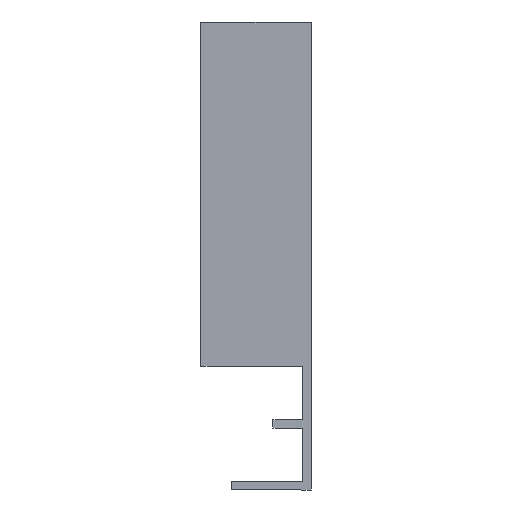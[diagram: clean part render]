
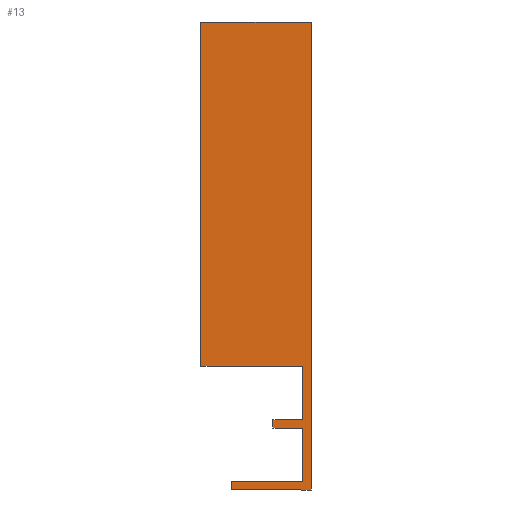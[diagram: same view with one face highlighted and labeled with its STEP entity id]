
A CAD part, left-side view. The second image highlights one B-rep face of the part: STEP entity #13.
In plain terms, the highlighted planar face has unit normal (-1, 0, 0).
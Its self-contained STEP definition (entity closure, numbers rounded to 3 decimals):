
#13 = ADVANCED_FACE ( 'NONE', ( #61 ), #304, .T. ) ;
#25 = VECTOR ( 'NONE', #354, 1000. ) ;
#26 = LINE ( 'NONE', #353, #25 ) ;
#28 = VECTOR ( 'NONE', #352, 1000. ) ;
#31 = VECTOR ( 'NONE', #347, 1000. ) ;
#32 = LINE ( 'NONE', #346, #31 ) ;
#34 = VECTOR ( 'NONE', #345, 1000. ) ;
#38 = VECTOR ( 'NONE', #341, 1000. ) ;
#39 = LINE ( 'NONE', #344, #28 ) ;
#41 = LINE ( 'NONE', #340, #34 ) ;
#43 = LINE ( 'NONE', #338, #38 ) ;
#51 = LINE ( 'NONE', #320, #52 ) ;
#52 = VECTOR ( 'NONE', #330, 1000. ) ;
#61 = FACE_OUTER_BOUND ( 'NONE', #87, .T. ) ;
#87 = EDGE_LOOP ( 'NONE', ( #162, #140, #141, #142, #151, #150, #149, #166, #167, #168, #169, #170 ) ) ;
#140 = ORIENTED_EDGE ( 'NONE', *, *, #283, .T. ) ;
#141 = ORIENTED_EDGE ( 'NONE', *, *, #246, .T. ) ;
#142 = ORIENTED_EDGE ( 'NONE', *, *, #284, .T. ) ;
#149 = ORIENTED_EDGE ( 'NONE', *, *, #254, .T. ) ;
#150 = ORIENTED_EDGE ( 'NONE', *, *, #240, .T. ) ;
#151 = ORIENTED_EDGE ( 'NONE', *, *, #242, .T. ) ;
#162 = ORIENTED_EDGE ( 'NONE', *, *, #238, .T. ) ;
#166 = ORIENTED_EDGE ( 'NONE', *, *, #290, .T. ) ;
#167 = ORIENTED_EDGE ( 'NONE', *, *, #244, .T. ) ;
#168 = ORIENTED_EDGE ( 'NONE', *, *, #276, .T. ) ;
#169 = ORIENTED_EDGE ( 'NONE', *, *, #229, .T. ) ;
#170 = ORIENTED_EDGE ( 'NONE', *, *, #286, .T. ) ;
#177 = LINE ( 'NONE', #363, #178 ) ;
#178 = VECTOR ( 'NONE', #364, 1000. ) ;
#194 = VECTOR ( 'NONE', #401, 1000. ) ;
#197 = LINE ( 'NONE', #400, #194 ) ;
#198 = LINE ( 'NONE', #378, #200 ) ;
#200 = VECTOR ( 'NONE', #390, 1000. ) ;
#204 = LINE ( 'NONE', #393, #205 ) ;
#205 = VECTOR ( 'NONE', #394, 1000. ) ;
#206 = LINE ( 'NONE', #395, #207 ) ;
#207 = VECTOR ( 'NONE', #396, 1000. ) ;
#214 = LINE ( 'NONE', #406, #215 ) ;
#215 = VECTOR ( 'NONE', #407, 1000. ) ;
#229 = EDGE_CURVE ( 'NONE', #530, #483, #51, .T. ) ;
#238 = EDGE_CURVE ( 'NONE', #482, #470, #43, .T. ) ;
#240 = EDGE_CURVE ( 'NONE', #488, #529, #41, .T. ) ;
#242 = EDGE_CURVE ( 'NONE', #506, #488, #32, .T. ) ;
#244 = EDGE_CURVE ( 'NONE', #489, #481, #39, .T. ) ;
#246 = EDGE_CURVE ( 'NONE', #486, #476, #26, .T. ) ;
#249 = AXIS2_PLACEMENT_3D ( 'NONE', #308, #314, #315 ) ;
#254 = EDGE_CURVE ( 'NONE', #529, #492, #177, .T. ) ;
#276 = EDGE_CURVE ( 'NONE', #481, #530, #198, .T. ) ;
#283 = EDGE_CURVE ( 'NONE', #470, #486, #204, .T. ) ;
#284 = EDGE_CURVE ( 'NONE', #476, #506, #206, .T. ) ;
#286 = EDGE_CURVE ( 'NONE', #483, #482, #197, .T. ) ;
#290 = EDGE_CURVE ( 'NONE', #492, #489, #214, .T. ) ;
#304 = PLANE ( 'NONE',  #249 ) ;
#308 = CARTESIAN_POINT ( 'NONE',  ( -335.5, 6., -16.7 ) ) ;
#314 = DIRECTION ( 'NONE',  ( -1., 0., 0. ) ) ;
#315 = DIRECTION ( 'NONE',  ( 0., -1., 0. ) ) ;
#320 = CARTESIAN_POINT ( 'NONE',  ( -335.5, 0., -8.95 ) ) ;
#330 = DIRECTION ( 'NONE',  ( 0., -1., 0. ) ) ;
#338 = CARTESIAN_POINT ( 'NONE',  ( -335.5, -4.3, -16.7 ) ) ;
#340 = CARTESIAN_POINT ( 'NONE',  ( -335.5, 10.4, 49.7 ) ) ;
#341 = DIRECTION ( 'NONE',  ( 0., 1., 0. ) ) ;
#344 = CARTESIAN_POINT ( 'NONE',  ( -335.5, -4.3, -7.75 ) ) ;
#345 = DIRECTION ( 'NONE',  ( 0., 0., -1. ) ) ;
#346 = CARTESIAN_POINT ( 'NONE',  ( -335.5, -5.5, 49.7 ) ) ;
#347 = DIRECTION ( 'NONE',  ( 0., 1., 0. ) ) ;
#352 = DIRECTION ( 'NONE',  ( 0., 1., 0. ) ) ;
#353 = CARTESIAN_POINT ( 'NONE',  ( -335.5, 6., -17.9 ) ) ;
#354 = DIRECTION ( 'NONE',  ( 0., -1., 0. ) ) ;
#363 = CARTESIAN_POINT ( 'NONE',  ( -335.5, 10.4, 0. ) ) ;
#364 = DIRECTION ( 'NONE',  ( 0., -1., 0. ) ) ;
#378 = CARTESIAN_POINT ( 'NONE',  ( -335.5, 0., -7.75 ) ) ;
#390 = DIRECTION ( 'NONE',  ( 0., 0., -1. ) ) ;
#393 = CARTESIAN_POINT ( 'NONE',  ( -335.5, 6., -16.7 ) ) ;
#394 = DIRECTION ( 'NONE',  ( 0., 0., -1. ) ) ;
#395 = CARTESIAN_POINT ( 'NONE',  ( -335.5, -5.5, -17.9 ) ) ;
#396 = DIRECTION ( 'NONE',  ( 0., 0., 1. ) ) ;
#400 = CARTESIAN_POINT ( 'NONE',  ( -335.5, -4.3, -8.95 ) ) ;
#401 = DIRECTION ( 'NONE',  ( 0., 0., -1. ) ) ;
#406 = CARTESIAN_POINT ( 'NONE',  ( -335.5, -4.3, 0. ) ) ;
#407 = DIRECTION ( 'NONE',  ( 0., 0., -1. ) ) ;
#415 = CARTESIAN_POINT ( 'NONE',  ( -335.5, 6., -16.7 ) ) ;
#420 = CARTESIAN_POINT ( 'NONE',  ( -335.5, -5.5, -17.9 ) ) ;
#424 = CARTESIAN_POINT ( 'NONE',  ( -335.5, 0., -7.75 ) ) ;
#425 = CARTESIAN_POINT ( 'NONE',  ( -335.5, -4.3, -16.7 ) ) ;
#426 = CARTESIAN_POINT ( 'NONE',  ( -335.5, -4.3, -8.95 ) ) ;
#429 = CARTESIAN_POINT ( 'NONE',  ( -335.5, 6., -17.9 ) ) ;
#431 = CARTESIAN_POINT ( 'NONE',  ( -335.5, 10.4, 49.7 ) ) ;
#432 = CARTESIAN_POINT ( 'NONE',  ( -335.5, -4.3, -7.75 ) ) ;
#435 = CARTESIAN_POINT ( 'NONE',  ( -335.5, -4.3, 0. ) ) ;
#444 = CARTESIAN_POINT ( 'NONE',  ( -335.5, -5.5, 49.7 ) ) ;
#448 = CARTESIAN_POINT ( 'NONE',  ( -335.5, 10.4, 0. ) ) ;
#449 = CARTESIAN_POINT ( 'NONE',  ( -335.5, 0., -8.95 ) ) ;
#470 = VERTEX_POINT ( 'NONE', #415 ) ;
#476 = VERTEX_POINT ( 'NONE', #420 ) ;
#481 = VERTEX_POINT ( 'NONE', #424 ) ;
#482 = VERTEX_POINT ( 'NONE', #425 ) ;
#483 = VERTEX_POINT ( 'NONE', #426 ) ;
#486 = VERTEX_POINT ( 'NONE', #429 ) ;
#488 = VERTEX_POINT ( 'NONE', #431 ) ;
#489 = VERTEX_POINT ( 'NONE', #432 ) ;
#492 = VERTEX_POINT ( 'NONE', #435 ) ;
#506 = VERTEX_POINT ( 'NONE', #444 ) ;
#529 = VERTEX_POINT ( 'NONE', #448 ) ;
#530 = VERTEX_POINT ( 'NONE', #449 ) ;
